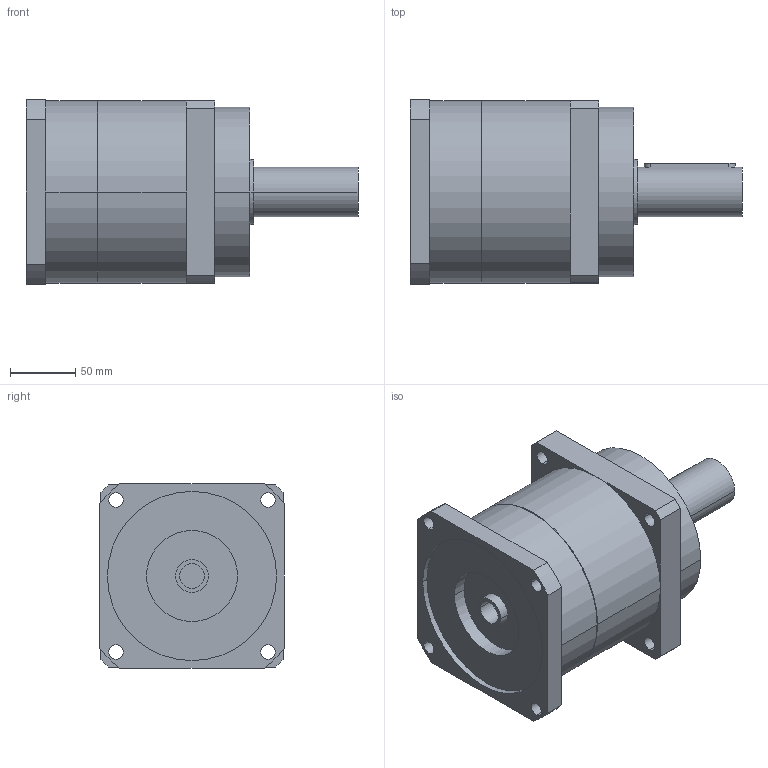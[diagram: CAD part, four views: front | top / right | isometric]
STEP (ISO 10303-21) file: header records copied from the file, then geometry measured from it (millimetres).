
FILE_DESCRIPTION(('CoCreate Modeling STEP Export'),'2;1');
FILE_NAME('GPR150_ig-3-4-5-7_38_B5_19_P05.stp','2014-08-19T16:42:07',(''),(''),'CoCreate Modeling STEP processor for AP214 (Solid Model)','CoCreate Modeling 16.00C 25-Feb-2009 (C) Parametric Technology GmbH','');
FILE_SCHEMA(('AUTOMOTIVE_DESIGN { 1 0 10303 214 1 1 1 1 }'));
Length unit declared in the file: millimetre
Products named in the file (2): GPR150_ig-3-4-5-7_38_B5_19_P05
Assembly tree (1 placements, depth 2):
  GPR150_ig-3-4-5-7_38_B5_19_P05
    GPR150_ig-3-4-5-7_38_B5_19_P05
Bounding box: 255 x 142 x 142 mm (x, y, z)
Volume: 2722278.3 mm3; surface area: 148282.9 mm2
Topology: 1 solids, 1 shells, 78 faces, 214 edges, 146 vertices
Faces by surface type: cylinder 46, plane 26, cone 6
Entity records: 2260 total; most frequent: ORIENTED_EDGE 424, CARTESIAN_POINT 421, DIRECTION 320, EDGE_CURVE 212, VERTEX_POINT 146, AXIS2_PLACEMENT_3D 117, EDGE_LOOP 104, VECTOR 86
